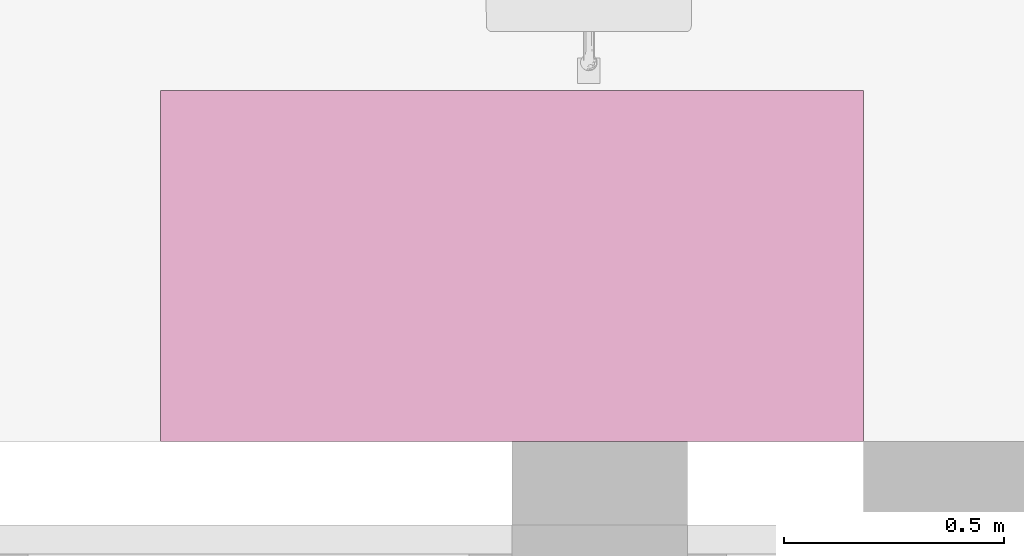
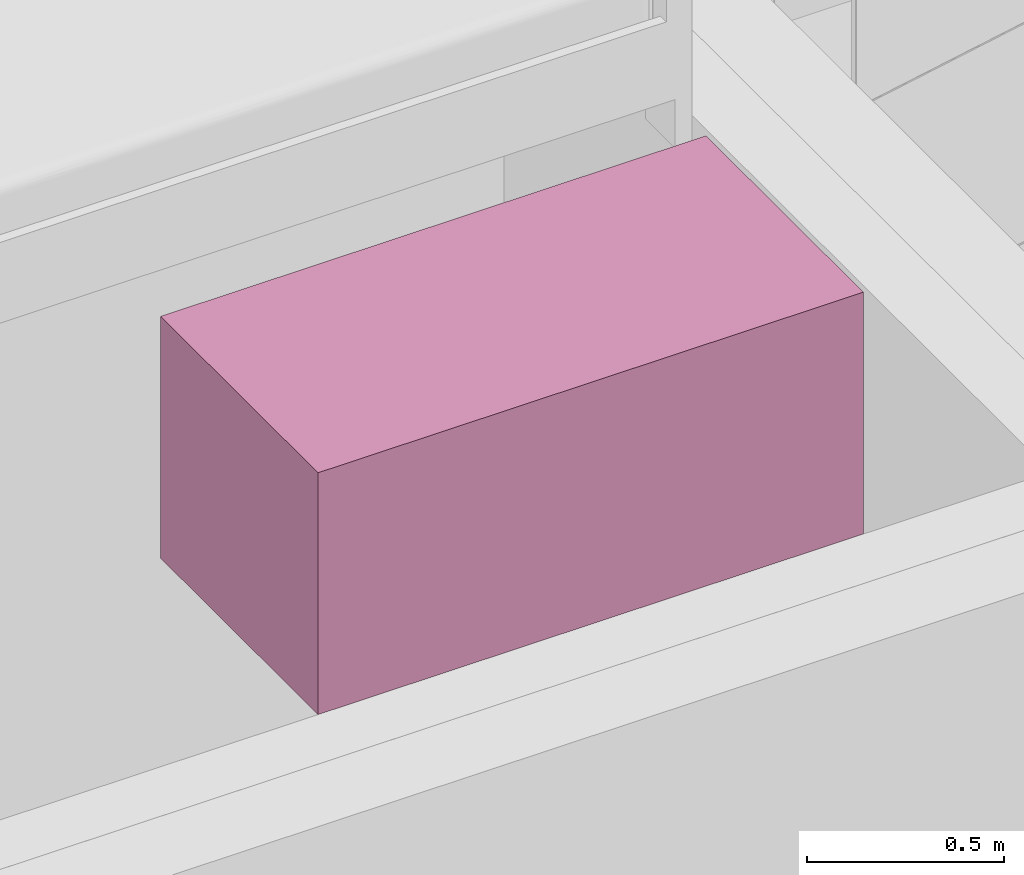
# One storey, part 84 of 125: 1 furnishing.
"""IFC2X3 building model written with IfcOpenShell, lengths in millimetres."""

import ifcopenshell
import ifcopenshell.guid

model = None  # the IFC model being written
_history = None  # IfcOwnerHistory: only IFC2X3 demands one
_inside = {}  # id of a spatial element -> (the spatial element, [elements in it])
_under = {}  # id of a project, library or spatial element -> (it, [spatial elements below it])
_declared = {}  # id of a project -> (the project, [libraries it declares])
_typed = {}  # id of a type object -> (the type object, [elements of that type])
_made_of = {}  # id of a material, layer set ... -> (it, [elements and type objects made of it])


def new_model(schema):
    """Start an empty IFC model of exactly this schema.

    Asked for "IFC4X3", IfcOpenShell would pick the latest addendum, in which some entities
    have other attributes; the version numbers below select the first issue.
    IFC2X3 requires an IfcOwnerHistory on every rooted entity: one is made here for all.
    """
    global model, _history
    if schema == "IFC4X3":
        model = ifcopenshell.file(schema_version=(4, 3, 0, 0))
    else:
        model = ifcopenshell.file(schema=schema)
    _inside.clear()
    _under.clear()
    _declared.clear()
    _typed.clear()
    _made_of.clear()
    _history = None
    if model.schema == "IFC2X3":
        org = make("IfcOrganization", Name="unknown")
        user = make(
            "IfcPersonAndOrganization",
            ThePerson=make("IfcPerson", FamilyName="unknown"),
            TheOrganization=org,
        )
        app = make(
            "IfcApplication",
            ApplicationDeveloper=org,
            Version="unknown",
            ApplicationFullName="unknown",
            ApplicationIdentifier="unknown",
        )
        _history = make(
            "IfcOwnerHistory",
            OwningUser=user,
            OwningApplication=app,
            ChangeAction="ADDED",
            CreationDate=0,
        )
    return model


def make(cls, **values):
    """One entity of the class cls with the attributes given. An attribute that is None is left unset."""
    return model.create_entity(
        cls, **{name: value for name, value in values.items() if value is not None}
    )


def entity(cls, *values):
    """Any entity or typed value of the class cls, its attributes in the order of the schema. None: left unset."""
    e = model.create_entity(cls)
    for i, value in enumerate(values):
        if value is not None:
            e[i] = value
    return e


def rooted(cls, **values):
    """An entity with a GlobalId (a new one), such as an element, a storey or a relation."""
    return make(cls, GlobalId=ifcopenshell.guid.new(), OwnerHistory=_history, **values)


def si_unit(unit_type, name, prefix=None):
    """IfcSIUnit, for example si_unit("LENGTHUNIT", "METRE", prefix="MILLI")."""
    return make("IfcSIUnit", UnitType=unit_type, Prefix=prefix, Name=name)


def converted_unit(unit_type, name, factor, base, dimensions=None, offset=None):
    """IfcConversionBasedUnit, such as the inch: factor (a typed value) times the base unit."""
    return make(
        "IfcConversionBasedUnit"
        if offset is None
        else "IfcConversionBasedUnitWithOffset",
        ConversionOffset=offset,
        Dimensions=None
        if dimensions is None
        else entity("IfcDimensionalExponents", *dimensions),
        UnitType=unit_type,
        Name=name,
        ConversionFactor=make(
            "IfcMeasureWithUnit", ValueComponent=factor, UnitComponent=base
        ),
    )


def assignment(units):
    """IfcUnitAssignment: the units of a project."""
    return None if units is None else make("IfcUnitAssignment", Units=units)


def point(xyz):
    """IfcCartesianPoint."""
    return None if xyz is None else make("IfcCartesianPoint", Coordinates=xyz)


def direction(xyz):
    """IfcDirection."""
    return None if xyz is None else make("IfcDirection", DirectionRatios=xyz)


def frame(location, z_axis=None, x_axis=None):
    """IfcAxis2Placement3D, a coordinate frame: its origin and axes. An axis left out is left unset."""
    return make(
        "IfcAxis2Placement3D",
        Location=point(location),
        Axis=direction(z_axis),
        RefDirection=direction(x_axis),
    )


def frame_2d(location, x_axis=None):
    """IfcAxis2Placement2D, a coordinate frame in the plane: its origin and x axis."""
    return make(
        "IfcAxis2Placement2D", Location=point(location), RefDirection=direction(x_axis)
    )


def origin():
    """The frame at (0, 0, 0) with its axes left unset."""
    return frame((0.0, 0.0, 0.0))


def place(relative_to, where):
    """IfcLocalPlacement: puts the frame where relative to a parent placement (None: the world)."""
    return make(
        "IfcLocalPlacement", PlacementRelTo=relative_to, RelativePlacement=where
    )


def context(
    kind, dimensions, precision=None, world=None, true_north=None, identifier=None
):
    """IfcGeometricRepresentationContext, for example the 3D "Model" context."""
    return make(
        "IfcGeometricRepresentationContext",
        ContextIdentifier=identifier,
        ContextType=kind,
        CoordinateSpaceDimension=dimensions,
        Precision=precision,
        WorldCoordinateSystem=world,
        TrueNorth=true_north,
    )


def subcontext(parent, identifier, kind, view, scale=None):
    """IfcGeometricRepresentationSubContext, for example "Body" below "Model"."""
    return make(
        "IfcGeometricRepresentationSubContext",
        ContextIdentifier=identifier,
        ContextType=kind,
        ParentContext=parent,
        TargetScale=scale,
        TargetView=view,
    )


def project(units=None, contexts=None):
    """IfcProject with its units and contexts."""
    return rooted(
        "IfcProject",
        Name="project",
        RepresentationContexts=contexts,
        UnitsInContext=assignment(units),
    )


def spatial(cls, under=None, at=None, **own):
    """A site, building, storey or space (cls), placed at a placement, below another one or the project."""
    s = rooted(cls, ObjectPlacement=at, **own)
    if under is not None:
        _under.setdefault(under.id(), (under, []))[1].append(s)
    return s


def profile(cls, at=None, kind="AREA", **sizes):
    """A parametric profile (cls). Its sizes go by their IFC names, for example OverallWidth=200.0."""
    return make(cls, ProfileType=kind, Position=at, **sizes)


def rectangle(**sizes):
    """IfcRectangleProfileDef."""
    return profile("IfcRectangleProfileDef", **sizes)


def extrude(swept, where, along, depth):
    """IfcExtrudedAreaSolid: the profile swept, set in the frame where, extruded along a direction by depth."""
    return make(
        "IfcExtrudedAreaSolid",
        SweptArea=swept,
        Position=where,
        ExtrudedDirection=direction(along),
        Depth=depth,
    )


def shape(context_of_items, identifier, shape_type, items):
    """IfcShapeRepresentation: the items that make up one representation, for example the "Body"."""
    return make(
        "IfcShapeRepresentation",
        ContextOfItems=context_of_items,
        RepresentationIdentifier=identifier,
        RepresentationType=shape_type,
        Items=items,
    )


def source(mapping_origin, context_of_items, identifier, shape_type, items):
    """IfcRepresentationMap: a shape defined once, which mapped items show again and again."""
    return make(
        "IfcRepresentationMap",
        MappingOrigin=mapping_origin,
        MappedRepresentation=shape(context_of_items, identifier, shape_type, items),
    )


def transform(
    local_origin,
    x_axis=None,
    y_axis=None,
    z_axis=None,
    scale=None,
    scale2=None,
    scale3=None,
    uniform=True,
):
    """IfcCartesianTransformationOperator3D, or its non-uniform kind. x_axis, y_axis, z_axis: its Axis1, 2, 3."""
    if uniform:
        return make(
            "IfcCartesianTransformationOperator3D",
            Axis1=direction(x_axis),
            Axis2=direction(y_axis),
            LocalOrigin=point(local_origin),
            Scale=scale,
            Axis3=direction(z_axis),
        )
    return make(
        "IfcCartesianTransformationOperator3DnonUniform",
        Axis1=direction(x_axis),
        Axis2=direction(y_axis),
        LocalOrigin=point(local_origin),
        Scale=scale,
        Axis3=direction(z_axis),
        Scale2=scale2,
        Scale3=scale3,
    )


def mapped(mapping_source, mapping_target):
    """IfcMappedItem: shows the shape of a source again, moved by a transform."""
    return make(
        "IfcMappedItem", MappingSource=mapping_source, MappingTarget=mapping_target
    )


def material(Name=None, Category=None):
    """IfcMaterial."""
    return make("IfcMaterial", Name=Name, Category=Category)


def made_of(thing, what):
    """Note that an element or type object is made of a material, layer set ...; save() writes the relation."""
    if what is not None:
        _made_of.setdefault(what.id(), (what, []))[1].append(thing)
    return thing


def type_object(cls, material=None, **own):
    """A type object (cls), such as IfcWallType, which elements share."""
    return made_of(rooted(cls, **own), material)


def type_shapes(of_type, sources):
    """Give a type object the sources (RepresentationMaps) that its elements show as mapped items."""
    of_type.RepresentationMaps = sources


def element(
    cls,
    number,
    at=None,
    inside=None,
    cuts=None,
    type_object=None,
    material=None,
    context=None,
    identifier="Body",
    shape_type=None,
    held_by="IfcProductDefinitionShape",
    body=None,
    shapes=None,
    **own,
):
    """One element of the class cls, such as IfcWall. Its Tag is "e" and its number.

    at: its placement. inside: the storey or other place that contains it. cuts: it is an
    opening in that element (IfcRelVoidsElement). A single representation is given by context,
    identifier, shape_type and body (its items); several are given by shapes. held_by: the class
    of the entity that holds the representations. save() writes the other relations.
    """
    e = rooted(cls, Tag="e%d" % number, ObjectPlacement=at, **own)
    if body is not None:
        shapes = [shape(context, identifier, shape_type, body)]
    if shapes is not None:
        e.Representation = make(held_by, Representations=shapes)
    if inside is not None:
        _inside.setdefault(inside.id(), (inside, []))[1].append(e)
    if cuts is not None:
        rooted(
            "IfcRelVoidsElement", RelatingBuildingElement=cuts, RelatedOpeningElement=e
        )
    if type_object is not None:
        _typed.setdefault(type_object.id(), (type_object, []))[1].append(e)
    return made_of(e, material)


def aggregate(whole, parts):
    """IfcRelAggregates: a whole, such as a stair, and the parts it consists of."""
    return rooted("IfcRelAggregates", RelatingObject=whole, RelatedObjects=parts)


def save(model, path):
    """Write the relations noted so far, then the file.

    IfcRelAggregates (storeys below a building ...), IfcRelContainedInSpatialStructure (elements
    in a storey), IfcRelDefinesByType, IfcRelAssociatesMaterial and IfcRelDeclares: one each for
    every whole, place, type object, material and project.
    """
    for whole, parts in _under.values():
        aggregate(whole, parts)
    for where, things in _inside.values():
        rooted(
            "IfcRelContainedInSpatialStructure",
            RelatedElements=things,
            RelatingStructure=where,
        )
    for kind, things in _typed.values():
        rooted("IfcRelDefinesByType", RelatedObjects=things, RelatingType=kind)
    for what, things in _made_of.values():
        rooted("IfcRelAssociatesMaterial", RelatedObjects=things, RelatingMaterial=what)
    for by, libraries in _declared.values():
        rooted("IfcRelDeclares", RelatingContext=by, RelatedDefinitions=libraries)
    model.write(path)


model = new_model("IFC2X3")

# Units and contexts
model_context = context("Model", 3, precision=0.01, world=origin(), true_north=direction((6.123233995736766e-17, 1.0)))
plan_context = context("Plan", 3, precision=0.01, world=origin(), true_north=direction((6.123233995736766e-17, 1.0)))
body_context = subcontext(model_context, "Body", "Model", "MODEL_VIEW")
ifc_project = project(units=[si_unit("LENGTHUNIT", "METRE", prefix="MILLI"), converted_unit("PLANEANGLEUNIT", "DEGREE", entity("IfcPlaneAngleMeasure", 0.017453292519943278), si_unit("PLANEANGLEUNIT", "RADIAN"), dimensions=[0, 0, 0, 0, 0, 0, 0]), si_unit("AREAUNIT", "SQUARE_METRE")], contexts=[model_context, plan_context])

# Site, building, storey, space
site_placement = place(None, origin())
site = spatial("IfcSite", under=ifc_project, at=site_placement, Name="Default", CompositionType="ELEMENT")
building_placement = place(site_placement, origin())
building = spatial("IfcBuilding", under=site, at=building_placement, CompositionType="ELEMENT")
storey_placement = place(building_placement, frame((0.0, 0.0, 3125.0)))
storey = spatial("IfcBuildingStorey", under=building, at=storey_placement, Name="2K", CompositionType="ELEMENT", Elevation=3125.0)
space_placement = place(storey_placement, origin())
space = spatial("IfcSpace", under=storey, at=space_placement, Name="2-4.5", CompositionType="ELEMENT", InteriorOrExteriorSpace="INTERNAL")

# Furnishing
ifc_material = material(Name="<Unnamed>")
furniture_type = type_object("IfcFurnitureType", Name="HR_Furniture_Office-desk_Placeholder_v2:Default", AssemblyPlace="NOTDEFINED", material=ifc_material)
shared_shape = source(origin(), body_context, "Body", "SweptSolid", [
    extrude(rectangle(XDim=800.0, YDim=1600.0000000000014, at=frame_2d((-1.2789769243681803e-12, -2.8421709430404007e-13), x_axis=(1.0, 0.0))), frame((-800.0, -400.0, 0.0), z_axis=(0.0, 0.0, 1.0), x_axis=(0.0, 1.0, 0.0)), (0.0, 0.0, 1.0), 750.0),
])
type_shapes(furniture_type, [shared_shape])
furnishing_placement = place(space_placement, frame((14750.0, 800.0, 3170.0), z_axis=(0.0, 0.0, 1.0), x_axis=(-1.0, 0.0, 0.0)))
element("IfcFurnishingElement", 1, at=furnishing_placement, inside=space, type_object=furniture_type, material=ifc_material, Name="HR_Furniture_Office-desk_Placeholder_v2:Default", ObjectType="HR_Furniture_Office-desk_Placeholder_v2:Default", context=body_context, shape_type="MappedRepresentation", body=[
    mapped(shared_shape, transform((0.0, 0.0, 0.0), scale=1.0)),
])

save(model, "model.ifc")
